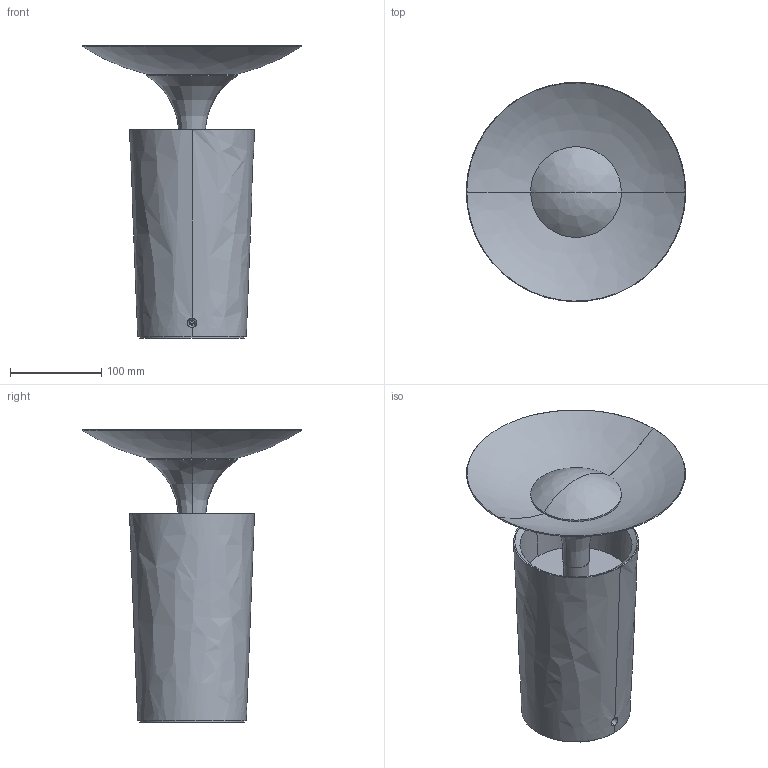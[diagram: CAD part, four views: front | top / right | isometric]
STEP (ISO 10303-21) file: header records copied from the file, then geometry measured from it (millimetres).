
FILE_DESCRIPTION(/* description */ (''),/* implementation_level */ '2;1');
FILE_NAME(/* name */ 'tix-bloco',/* time_stamp */ '2022-06-25T12:08:41-03:00',/* author */ (''),/* organization */ (''),/* preprocessor_version */ 'ST-DEVELOPER v15',/* originating_system */ '',/* authorisation */ '');
FILE_SCHEMA (('AUTOMOTIVE_DESIGN'));
Length unit declared in the file: millimetre
Products named in the file (1): Document
Bounding box: 240 x 239.94 x 320.4 mm (x, y, z)
Volume: 2703795.7 mm3; surface area: 243820.3 mm2
Topology: 1 solids, 1 shells, 39 faces, 85 edges, 49 vertices
Faces by surface type: bspline 34, plane 5
Entity records: 1477 total; most frequent: CARTESIAN_POINT 986, ORIENTED_EDGE 166, EDGE_CURVE 83, VERTEX_POINT 49, EDGE_LOOP 42, ADVANCED_FACE 39, FACE_OUTER_BOUND 39, B_SPLINE_CURVE_WITH_KNOTS 28
